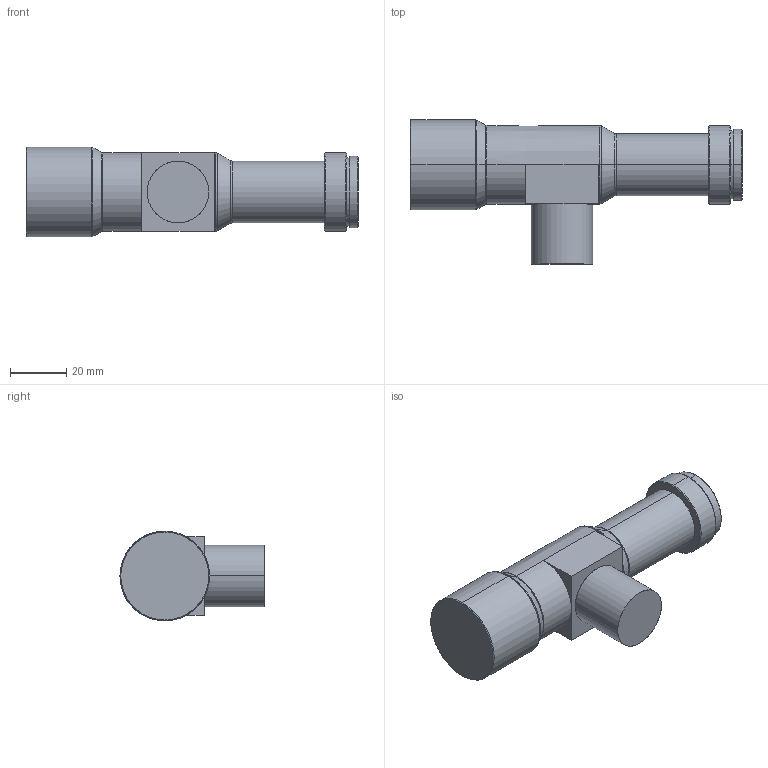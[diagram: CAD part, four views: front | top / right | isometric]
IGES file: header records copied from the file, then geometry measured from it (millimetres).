
Start section: SolidWorks IGES file using analytic representation for surfaces
Global section: file name: C:\Users\Administrator\Desktop\WWH25-108CTV3.IGS; native system: SolidWorks 2017; preprocessor: SolidWorks 2017; author: Administrator; date: 210514.164044; units: millimetre
Bounding box: 118.4 x 51.4 x 32 mm (x, y, z)
Surface area: 13762.6 mm2 (no closed solid volume)
Topology: 0 solids, 0 shells, 48 faces, 584 edges, 584 vertices
Faces by surface type: revolution 27, bspline 21
